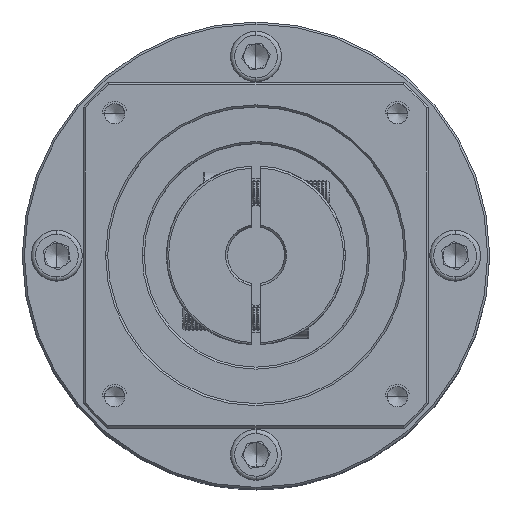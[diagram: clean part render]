
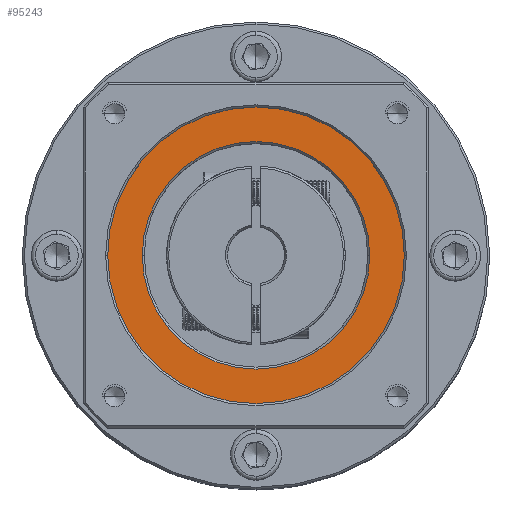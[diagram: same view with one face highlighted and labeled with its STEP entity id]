
A CAD part, top view. The second image highlights one B-rep face of the part: STEP entity #95243.
In plain terms, the highlighted planar face has unit normal (0, 0, 1).
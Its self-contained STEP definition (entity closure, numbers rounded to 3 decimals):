
#1923 = ORIENTED_EDGE ( 'NONE', *, *, #124183, .T. ) ;
#3087 = CIRCLE ( 'NONE', #75079, 28. ) ;
#4747 = ORIENTED_EDGE ( 'NONE', *, *, #5050, .T. ) ;
#5050 = EDGE_CURVE ( 'NONE', #16899, #11626, #96246, .T. ) ;
#5344 = DIRECTION ( 'NONE',  ( 0., 0., 1. ) ) ;
#8045 = CIRCLE ( 'NONE', #92079, 28. ) ;
#10704 = AXIS2_PLACEMENT_3D ( 'NONE', #40897, #49398, #69673 ) ;
#11626 = VERTEX_POINT ( 'NONE', #113752 ) ;
#12072 = PLANE ( 'NONE',  #10704 ) ;
#12380 = FACE_BOUND ( 'NONE', #86846, .T. ) ;
#13500 = DIRECTION ( 'NONE',  ( 0., 0., -1. ) ) ;
#16899 = VERTEX_POINT ( 'NONE', #106220 ) ;
#40897 = CARTESIAN_POINT ( 'NONE',  ( 88.613, -44.936, 14.186 ) ) ;
#47316 = FACE_OUTER_BOUND ( 'NONE', #61975, .T. ) ;
#47784 = DIRECTION ( 'NONE',  ( 1., 0., 0. ) ) ;
#48542 = CARTESIAN_POINT ( 'NONE',  ( 88.613, -44.936, 14.186 ) ) ;
#49398 = DIRECTION ( 'NONE',  ( 0., 0., 1. ) ) ;
#53466 = CIRCLE ( 'NONE', #118609, 36.5 ) ;
#54282 = CARTESIAN_POINT ( 'NONE',  ( 116.613, -44.936, 14.186 ) ) ;
#55321 = EDGE_CURVE ( 'NONE', #11626, #16899, #53466, .T. ) ;
#60926 = CARTESIAN_POINT ( 'NONE',  ( 88.613, -44.936, 14.186 ) ) ;
#61975 = EDGE_LOOP ( 'NONE', ( #4747, #71753 ) ) ;
#67920 = EDGE_CURVE ( 'NONE', #99464, #84338, #8045, .T. ) ;
#69673 = DIRECTION ( 'NONE',  ( 1., 0., 0. ) ) ;
#71753 = ORIENTED_EDGE ( 'NONE', *, *, #55321, .T. ) ;
#71864 = CARTESIAN_POINT ( 'NONE',  ( 88.613, -44.936, 14.186 ) ) ;
#75079 = AXIS2_PLACEMENT_3D ( 'NONE', #60926, #13500, #119638 ) ;
#76557 = DIRECTION ( 'NONE',  ( 0., 0., 1. ) ) ;
#84338 = VERTEX_POINT ( 'NONE', #54282 ) ;
#86247 = DIRECTION ( 'NONE',  ( 1., 0., 0. ) ) ;
#86846 = EDGE_LOOP ( 'NONE', ( #1923, #124626 ) ) ;
#92079 = AXIS2_PLACEMENT_3D ( 'NONE', #48542, #116100, #86247 ) ;
#95243 = ADVANCED_FACE ( 'NONE', ( #47316, #12380 ), #12072, .T. ) ;
#96033 = CARTESIAN_POINT ( 'NONE',  ( 88.613, -44.936, 14.186 ) ) ;
#96246 = CIRCLE ( 'NONE', #121600, 36.5 ) ;
#99464 = VERTEX_POINT ( 'NONE', #122404 ) ;
#106220 = CARTESIAN_POINT ( 'NONE',  ( 125.113, -44.936, 14.186 ) ) ;
#111470 = DIRECTION ( 'NONE',  ( 1., 0., 0. ) ) ;
#113752 = CARTESIAN_POINT ( 'NONE',  ( 52.113, -44.936, 14.186 ) ) ;
#116100 = DIRECTION ( 'NONE',  ( 0., 0., -1. ) ) ;
#118609 = AXIS2_PLACEMENT_3D ( 'NONE', #96033, #76557, #47784 ) ;
#119638 = DIRECTION ( 'NONE',  ( 1., 0., 0. ) ) ;
#121600 = AXIS2_PLACEMENT_3D ( 'NONE', #71864, #5344, #111470 ) ;
#122404 = CARTESIAN_POINT ( 'NONE',  ( 60.613, -44.936, 14.186 ) ) ;
#124183 = EDGE_CURVE ( 'NONE', #84338, #99464, #3087, .T. ) ;
#124626 = ORIENTED_EDGE ( 'NONE', *, *, #67920, .T. ) ;
